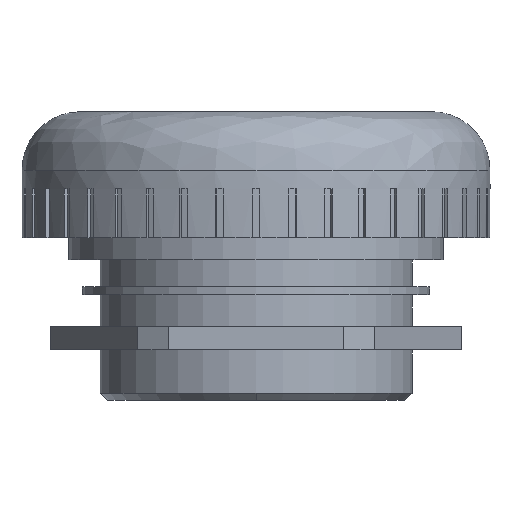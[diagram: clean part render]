
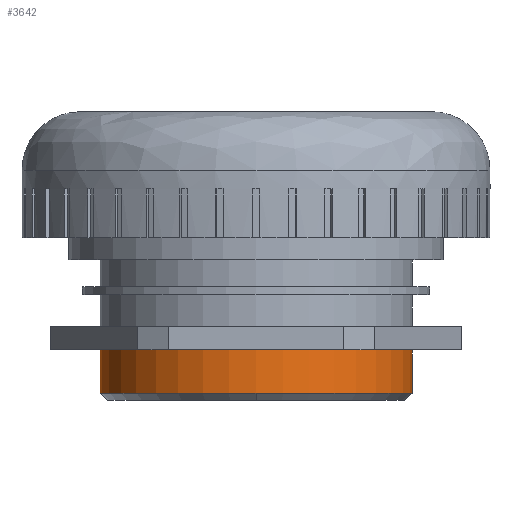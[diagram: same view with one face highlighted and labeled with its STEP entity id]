
A CAD part, front view. The second image highlights one B-rep face of the part: STEP entity #3642.
In plain terms, the highlighted cylindrical face has radius 20 mm (diameter 40 mm), a partial arc.
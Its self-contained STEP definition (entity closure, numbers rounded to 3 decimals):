
#120 = CARTESIAN_POINT ( 'NONE',  ( 20., 0., -19.93 ) ) ;
#127 = CIRCLE ( 'NONE', #5090, 20. ) ;
#1228 = EDGE_LOOP ( 'NONE', ( #8559, #8701, #8689, #1786, #2157 ) ) ;
#1410 = CARTESIAN_POINT ( 'NONE',  ( 20., 0., -11.39 ) ) ;
#1417 = DIRECTION ( 'NONE',  ( 0., 0., 1. ) ) ;
#1786 = ORIENTED_EDGE ( 'NONE', *, *, #4111, .T. ) ;
#2003 = VERTEX_POINT ( 'NONE', #4991 ) ;
#2157 = ORIENTED_EDGE ( 'NONE', *, *, #5243, .T. ) ;
#2163 = VERTEX_POINT ( 'NONE', #7753 ) ;
#2219 = DIRECTION ( 'NONE',  ( 0., 0., 1. ) ) ;
#2246 = DIRECTION ( 'NONE',  ( 1., 0., 0. ) ) ;
#2257 = CARTESIAN_POINT ( 'NONE',  ( 0., 0., -19.93 ) ) ;
#2290 = VERTEX_POINT ( 'NONE', #120 ) ;
#2355 = DIRECTION ( 'NONE',  ( 0., 0., 1. ) ) ;
#2365 = CARTESIAN_POINT ( 'NONE',  ( -20., 0., -11.39 ) ) ;
#2731 = VERTEX_POINT ( 'NONE', #4555 ) ;
#3430 = VECTOR ( 'NONE', #2355, 1000. ) ;
#3526 = LINE ( 'NONE', #2365, #3430 ) ;
#3642 = ADVANCED_FACE ( 'FACE70', ( #6790 ), #6715, .T. ) ;
#4111 = EDGE_CURVE ( 'NONE', #2290, #2163, #4377, .T. ) ;
#4274 = VECTOR ( 'NONE', #1417, 1000. ) ;
#4374 = EDGE_CURVE ( 'NONE', #2731, #5242, #3526, .T. ) ;
#4377 = LINE ( 'NONE', #1410, #4274 ) ;
#4529 = AXIS2_PLACEMENT_3D ( 'NONE', #2257, #2219, #2246 ) ;
#4555 = CARTESIAN_POINT ( 'NONE',  ( -20., 0., -19.93 ) ) ;
#4942 = DIRECTION ( 'NONE',  ( 0., 0., 1. ) ) ;
#4949 = DIRECTION ( 'NONE',  ( 1., 0., 0. ) ) ;
#4991 = CARTESIAN_POINT ( 'NONE',  ( 0., -20., -19.93 ) ) ;
#5076 = AXIS2_PLACEMENT_3D ( 'NONE', #6485, #6494, #6497 ) ;
#5090 = AXIS2_PLACEMENT_3D ( 'NONE', #6403, #4942, #4949 ) ;
#5229 = EDGE_CURVE ( 'NONE', #2731, #2003, #127, .T. ) ;
#5242 = VERTEX_POINT ( 'NONE', #6432 ) ;
#5243 = EDGE_CURVE ( 'NONE', #2163, #5242, #6373, .T. ) ;
#5767 = CARTESIAN_POINT ( 'NONE',  ( 0., 0., -11.39 ) ) ;
#6086 = AXIS2_PLACEMENT_3D ( 'NONE', #5767, #7387, #8565 ) ;
#6373 = CIRCLE ( 'NONE', #5076, 20. ) ;
#6403 = CARTESIAN_POINT ( 'NONE',  ( 0., 0., -19.93 ) ) ;
#6432 = CARTESIAN_POINT ( 'NONE',  ( -20., 0., -14.4 ) ) ;
#6485 = CARTESIAN_POINT ( 'NONE',  ( 0., 0., -14.4 ) ) ;
#6494 = DIRECTION ( 'NONE',  ( 0., 0., -1. ) ) ;
#6497 = DIRECTION ( 'NONE',  ( 1., 0., 0. ) ) ;
#6644 = EDGE_CURVE ( 'NONE', #2003, #2290, #7815, .T. ) ;
#6715 = CYLINDRICAL_SURFACE ( 'NONE', #6086, 20. ) ;
#6790 = FACE_OUTER_BOUND ( 'NONE', #1228, .T. ) ;
#7387 = DIRECTION ( 'NONE',  ( 0., 0., 1. ) ) ;
#7753 = CARTESIAN_POINT ( 'NONE',  ( 20., 0., -14.4 ) ) ;
#7815 = CIRCLE ( 'NONE', #4529, 20. ) ;
#8559 = ORIENTED_EDGE ( 'NONE', *, *, #4374, .F. ) ;
#8565 = DIRECTION ( 'NONE',  ( 1., 0., 0. ) ) ;
#8689 = ORIENTED_EDGE ( 'NONE', *, *, #6644, .T. ) ;
#8701 = ORIENTED_EDGE ( 'NONE', *, *, #5229, .T. ) ;
